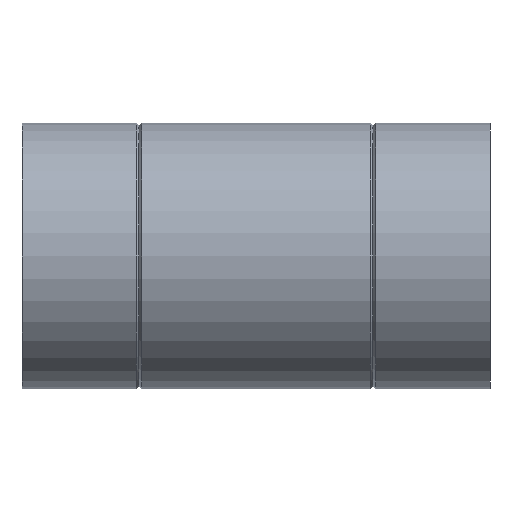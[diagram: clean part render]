
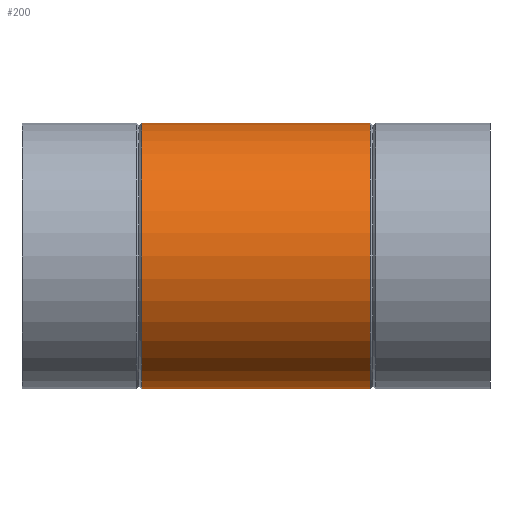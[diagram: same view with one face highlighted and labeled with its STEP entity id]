
A CAD part, left-side view. The second image highlights one B-rep face of the part: STEP entity #200.
In plain terms, the highlighted cylindrical face has radius 125 mm (diameter 250 mm), a full revolution.
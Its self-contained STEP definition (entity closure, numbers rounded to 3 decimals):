
#15=B_SPLINE_CURVE_WITH_KNOTS($,3,(#325,#326,#327,#328,#329,#330,#331,#332,
#333,#334,#335,#336,#337,#338,#339,#340,#341,#342,#343,#344,#345,#346,#347,
#348,#349,#350,#351,#352,#353,#354,#355,#356,#357,#358,#359,#360,#361,#362,
#363,#364,#365,#366,#367,#368,#369,#370,#371,#372,#373,#374,#375,#376,#377,
#378,#379,#380,#381,#382,#383,#384,#385,#386,#387,#388,#389,#390),
 .UNSPECIFIED.,.T.,.F.,(4,2,2,2,2,2,2,2,2,2,2,2,2,2,2,2,2,2,2,2,2,2,2,2,
2,2,2,2,2,2,2,2,4),(0.,1.058,2.116,3.174,
4.232,5.283,6.334,7.386,8.437,
9.488,10.54,11.591,12.642,13.7,
14.758,15.816,16.874,17.922,18.97,
20.018,21.066,22.116,23.167,24.217,
25.268,26.318,27.369,28.419,29.47,
30.518,31.566,32.614,33.662),
 .UNSPECIFIED.);
#17=CYLINDRICAL_SURFACE($,#222,125.);
#26=FACE_BOUND($,#63,.T.);
#27=FACE_BOUND($,#64,.T.);
#48=FACE_OUTER_BOUND($,#62,.T.);
#62=EDGE_LOOP($,(#145));
#63=EDGE_LOOP($,(#146));
#64=EDGE_LOOP($,(#147));
#94=CIRCLE($,#221,125.);
#95=CIRCLE($,#223,125.);
#109=VERTEX_POINT($,#319);
#110=VERTEX_POINT($,#322);
#111=VERTEX_POINT($,#324);
#126=EDGE_CURVE($,#109,#109,#94,.T.);
#127=EDGE_CURVE($,#110,#110,#95,.T.);
#128=EDGE_CURVE($,#111,#111,#15,.T.);
#145=ORIENTED_EDGE($,*,*,#127,.T.);
#146=ORIENTED_EDGE($,*,*,#128,.T.);
#147=ORIENTED_EDGE($,*,*,#126,.T.);
#200=ADVANCED_FACE($,(#48,#26,#27),#17,.T.);
#221=AXIS2_PLACEMENT_3D($,#320,#258,#259);
#222=AXIS2_PLACEMENT_3D($,#321,#260,#261);
#223=AXIS2_PLACEMENT_3D($,#323,#262,#263);
#258=DIRECTION('center_axis',(0.,-1.,0.));
#259=DIRECTION('ref_axis',(1.,0.,0.));
#260=DIRECTION('center_axis',(0.,1.,0.));
#261=DIRECTION('ref_axis',(1.,0.,0.));
#262=DIRECTION('center_axis',(0.,1.,0.));
#263=DIRECTION('ref_axis',(1.,0.,0.));
#319=CARTESIAN_POINT('',(125.,327.5,0.));
#320=CARTESIAN_POINT('Origin',(0.,327.5,0.));
#321=CARTESIAN_POINT('Origin',(0.,0.,0.));
#322=CARTESIAN_POINT('',(-125.,112.5,0.));
#323=CARTESIAN_POINT('Origin',(0.,112.5,0.));
#324=CARTESIAN_POINT('',(112.25,222.939,55.));
#325=CARTESIAN_POINT('Ctrl Pts',(112.25,222.939,55.));
#326=CARTESIAN_POINT('Ctrl Pts',(112.25,226.466,55.));
#327=CARTESIAN_POINT('Ctrl Pts',(112.42,230.093,54.656));
#328=CARTESIAN_POINT('Ctrl Pts',(113.102,237.276,53.231));
#329=CARTESIAN_POINT('Ctrl Pts',(113.612,240.831,52.152));
#330=CARTESIAN_POINT('Ctrl Pts',(114.868,247.628,49.322));
#331=CARTESIAN_POINT('Ctrl Pts',(115.614,250.875,47.571));
#332=CARTESIAN_POINT('Ctrl Pts',(117.191,256.874,43.542));
#333=CARTESIAN_POINT('Ctrl Pts',(118.02,259.626,41.265));
#334=CARTESIAN_POINT('Ctrl Pts',(119.599,264.486,36.436));
#335=CARTESIAN_POINT('Ctrl Pts',(120.407,266.771,33.714));
#336=CARTESIAN_POINT('Ctrl Pts',(121.915,270.819,27.768));
#337=CARTESIAN_POINT('Ctrl Pts',(122.614,272.583,24.545));
#338=CARTESIAN_POINT('Ctrl Pts',(123.775,275.43,17.792));
#339=CARTESIAN_POINT('Ctrl Pts',(124.236,276.517,14.256));
#340=CARTESIAN_POINT('Ctrl Pts',(124.849,277.948,7.112));
#341=CARTESIAN_POINT('Ctrl Pts',(125.,278.292,3.504));
#342=CARTESIAN_POINT('Ctrl Pts',(125.,278.292,-3.504));
#343=CARTESIAN_POINT('Ctrl Pts',(124.849,277.948,-7.112));
#344=CARTESIAN_POINT('Ctrl Pts',(124.236,276.517,-14.256));
#345=CARTESIAN_POINT('Ctrl Pts',(123.775,275.43,-17.792));
#346=CARTESIAN_POINT('Ctrl Pts',(122.614,272.583,-24.545));
#347=CARTESIAN_POINT('Ctrl Pts',(121.915,270.819,-27.768));
#348=CARTESIAN_POINT('Ctrl Pts',(120.407,266.771,-33.714));
#349=CARTESIAN_POINT('Ctrl Pts',(119.599,264.486,-36.436));
#350=CARTESIAN_POINT('Ctrl Pts',(118.02,259.626,-41.265));
#351=CARTESIAN_POINT('Ctrl Pts',(117.191,256.874,-43.542));
#352=CARTESIAN_POINT('Ctrl Pts',(115.614,250.875,-47.571));
#353=CARTESIAN_POINT('Ctrl Pts',(114.868,247.628,-49.322));
#354=CARTESIAN_POINT('Ctrl Pts',(113.612,240.831,-52.152));
#355=CARTESIAN_POINT('Ctrl Pts',(113.102,237.276,-53.231));
#356=CARTESIAN_POINT('Ctrl Pts',(112.42,230.093,-54.656));
#357=CARTESIAN_POINT('Ctrl Pts',(112.25,226.466,-55.));
#358=CARTESIAN_POINT('Ctrl Pts',(112.25,219.446,-55.));
#359=CARTESIAN_POINT('Ctrl Pts',(112.417,215.851,-54.662));
#360=CARTESIAN_POINT('Ctrl Pts',(113.091,208.736,-53.254));
#361=CARTESIAN_POINT('Ctrl Pts',(113.597,205.214,-52.184));
#362=CARTESIAN_POINT('Ctrl Pts',(114.846,198.491,-49.373));
#363=CARTESIAN_POINT('Ctrl Pts',(115.59,195.281,-47.63));
#364=CARTESIAN_POINT('Ctrl Pts',(117.163,189.36,-43.617));
#365=CARTESIAN_POINT('Ctrl Pts',(117.991,186.648,-41.347));
#366=CARTESIAN_POINT('Ctrl Pts',(119.575,181.845,-36.515));
#367=CARTESIAN_POINT('Ctrl Pts',(120.389,179.584,-33.78));
#368=CARTESIAN_POINT('Ctrl Pts',(121.906,175.588,-27.81));
#369=CARTESIAN_POINT('Ctrl Pts',(122.609,173.853,-24.575));
#370=CARTESIAN_POINT('Ctrl Pts',(123.773,171.055,-17.803));
#371=CARTESIAN_POINT('Ctrl Pts',(124.236,169.991,-14.261));
#372=CARTESIAN_POINT('Ctrl Pts',(124.849,168.59,-7.11));
#373=CARTESIAN_POINT('Ctrl Pts',(125.,168.254,-3.502));
#374=CARTESIAN_POINT('Ctrl Pts',(125.,168.254,3.502));
#375=CARTESIAN_POINT('Ctrl Pts',(124.849,168.59,7.11));
#376=CARTESIAN_POINT('Ctrl Pts',(124.236,169.991,14.261));
#377=CARTESIAN_POINT('Ctrl Pts',(123.773,171.055,17.803));
#378=CARTESIAN_POINT('Ctrl Pts',(122.609,173.853,24.575));
#379=CARTESIAN_POINT('Ctrl Pts',(121.906,175.588,27.81));
#380=CARTESIAN_POINT('Ctrl Pts',(120.389,179.584,33.78));
#381=CARTESIAN_POINT('Ctrl Pts',(119.575,181.845,36.515));
#382=CARTESIAN_POINT('Ctrl Pts',(117.991,186.648,41.347));
#383=CARTESIAN_POINT('Ctrl Pts',(117.163,189.36,43.617));
#384=CARTESIAN_POINT('Ctrl Pts',(115.59,195.281,47.63));
#385=CARTESIAN_POINT('Ctrl Pts',(114.846,198.491,49.373));
#386=CARTESIAN_POINT('Ctrl Pts',(113.597,205.214,52.184));
#387=CARTESIAN_POINT('Ctrl Pts',(113.091,208.736,53.254));
#388=CARTESIAN_POINT('Ctrl Pts',(112.417,215.851,54.662));
#389=CARTESIAN_POINT('Ctrl Pts',(112.25,219.446,55.));
#390=CARTESIAN_POINT('Ctrl Pts',(112.25,222.939,55.));
